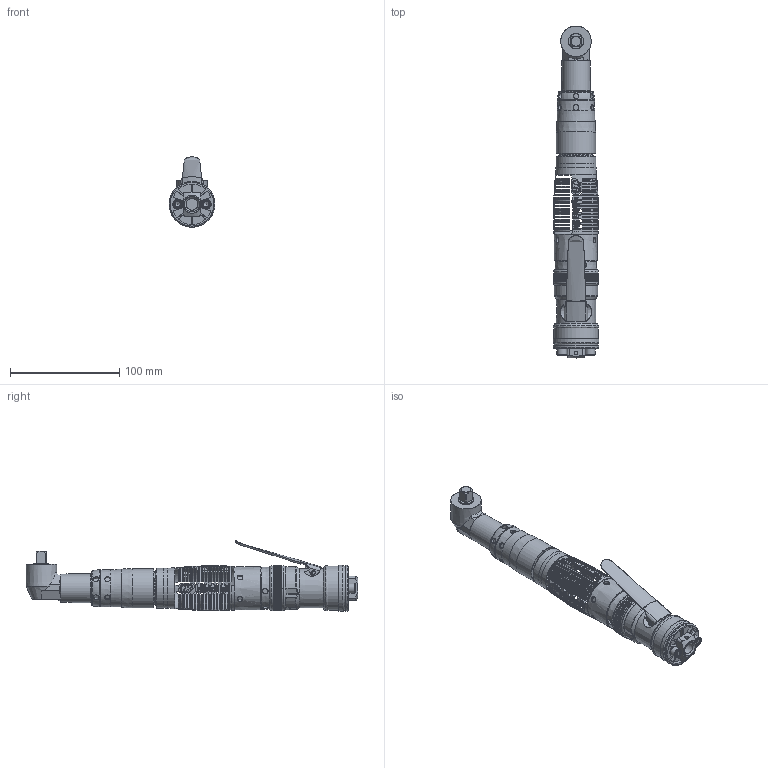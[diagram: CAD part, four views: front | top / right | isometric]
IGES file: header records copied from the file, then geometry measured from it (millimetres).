
Global section: file name: C:\Documents and Settings\jyoung\Desktop\QA4AALD030NP28S06.igs; native system: Unigraphics Version X V2.0; preprocessor: Unigraphics NX IGES V2.0; date: 20051010.162124; units: millimetre
Bounding box: 42 x 304.37 x 64.44 mm (x, y, z)
Surface area: 68777 mm2 (no closed solid volume)
Topology: 0 solids, 1 shells, 2906 faces, 26801 edges, 26653 vertices
Faces by surface type: extrusion 1157, revolution 1003, bspline 746
